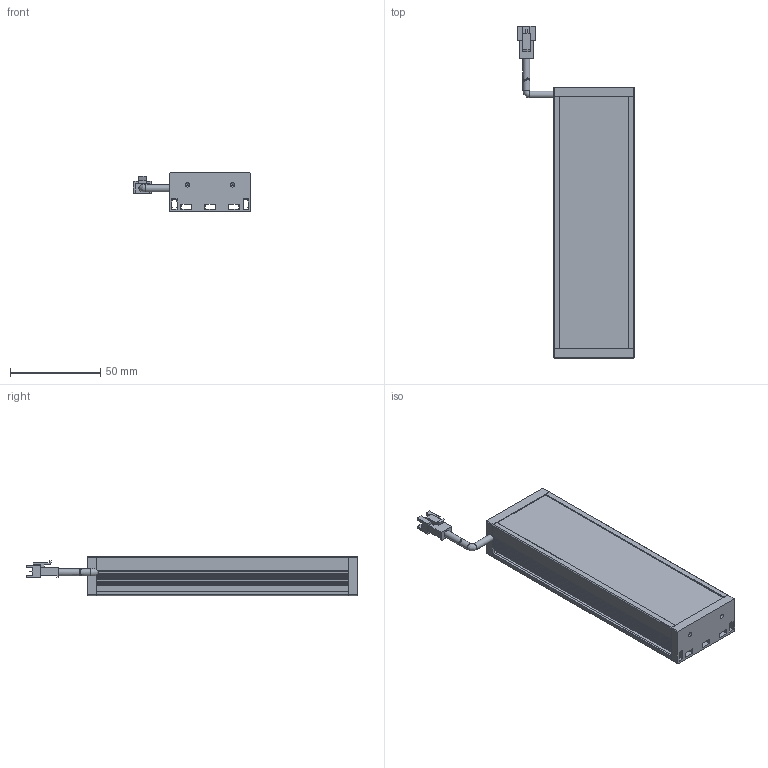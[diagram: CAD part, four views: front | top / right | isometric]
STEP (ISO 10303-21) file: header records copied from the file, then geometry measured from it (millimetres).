
FILE_DESCRIPTION(/* description */ (''),/* implementation_level */ '2;1');
FILE_NAME(/* name */ '',/* time_stamp */ '2024-02-21T14:19:56+08:00',/* author */ (''),/* organization */ (''),/* preprocessor_version */ 'ST-DEVELOPER v20',/* originating_system */ 'Autodesk Translation Framework v12.20.1.177',/* authorisation */ '');
FILE_SCHEMA (('AUTOMOTIVE_DESIGN { 1 0 10303 214 3 1 1 }'));
Length unit declared in the file: millimetre
Products named in the file (6): L45; 3拼母头 v2; 主体; 漫射板; 挡头 (1); 挡头
Assembly tree (5 placements, depth 2):
  L45
    3拼母头 v2
    主体
    漫射板
    挡头 (1)
    挡头
Bounding box: 65 x 184 x 22 mm (x, y, z)
Volume: 71922 mm3; surface area: 59398.3 mm2
Topology: 6 solids, 6 shells, 414 faces, 1174 edges, 780 vertices
Faces by surface type: plane 306, cylinder 103, cone 4, torus 1
Full cylindrical faces by diameter (mm): 2.529 x4, 3.8 x3
Entity records: 13562 total; most frequent: CARTESIAN_POINT 2384, ORIENTED_EDGE 2340, DIRECTION 2240, EDGE_CURVE 1170, LINE 948, VECTOR 948, VERTEX_POINT 780, AXIS2_PLACEMENT_3D 646
